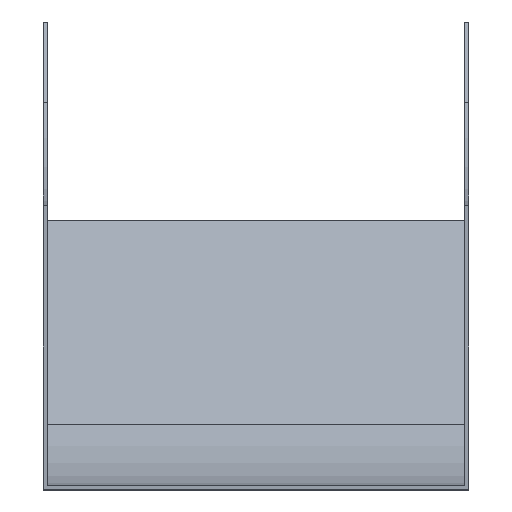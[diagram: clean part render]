
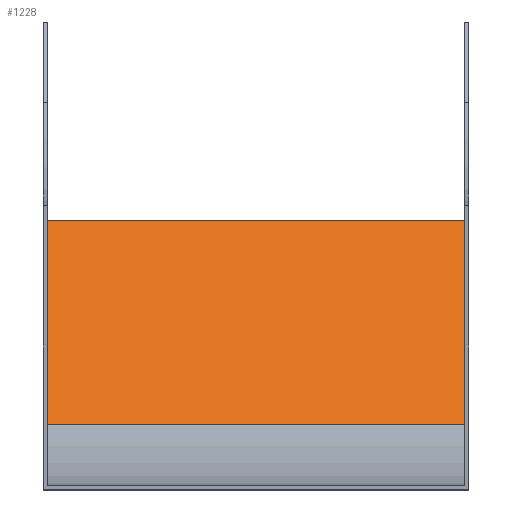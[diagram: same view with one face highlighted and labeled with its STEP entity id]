
A CAD part, top view. The second image highlights one B-rep face of the part: STEP entity #1228.
In plain terms, the highlighted planar face has unit normal (0, 0.707, 0.707).
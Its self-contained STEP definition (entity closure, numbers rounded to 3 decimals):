
#1 = VECTOR ( 'NONE', #472, 1000. ) ;
#22 = VECTOR ( 'NONE', #184, 1000. ) ;
#59 = VECTOR ( 'NONE', #478, 1000. ) ;
#76 = EDGE_CURVE ( 'NONE', #772, #185, #1101, .T. ) ;
#111 = EDGE_CURVE ( 'NONE', #1605, #469, #958, .T. ) ;
#167 = EDGE_CURVE ( 'NONE', #1605, #772, #1469, .T. ) ;
#184 = DIRECTION ( 'NONE',  ( -1., 0., 0. ) ) ;
#185 = VERTEX_POINT ( 'NONE', #729 ) ;
#294 = CARTESIAN_POINT ( 'NONE',  ( 75., -4.754, -226.323 ) ) ;
#358 = ORIENTED_EDGE ( 'NONE', *, *, #715, .F. ) ;
#409 = PLANE ( 'NONE',  #1040 ) ;
#469 = VERTEX_POINT ( 'NONE', #1627 ) ;
#472 = DIRECTION ( 'NONE',  ( -1., 0., 0. ) ) ;
#478 = DIRECTION ( 'NONE',  ( 0., 0.707, -0.707 ) ) ;
#532 = DIRECTION ( 'NONE',  ( 0., 0.707, 0.707 ) ) ;
#571 = DIRECTION ( 'NONE',  ( 0., 0.707, -0.707 ) ) ;
#715 = EDGE_CURVE ( 'NONE', #469, #185, #1372, .T. ) ;
#729 = CARTESIAN_POINT ( 'NONE',  ( -73.5, -4.754, -226.323 ) ) ;
#772 = VERTEX_POINT ( 'NONE', #1041 ) ;
#781 = CARTESIAN_POINT ( 'NONE',  ( 73.5, -76.972, -154.104 ) ) ;
#791 = DIRECTION ( 'NONE',  ( 0., -0.707, 0.707 ) ) ;
#827 = VECTOR ( 'NONE', #571, 1000. ) ;
#828 = CARTESIAN_POINT ( 'NONE',  ( 75., -76.972, -154.104 ) ) ;
#837 = ORIENTED_EDGE ( 'NONE', *, *, #111, .F. ) ;
#958 = LINE ( 'NONE', #828, #1 ) ;
#972 = CARTESIAN_POINT ( 'NONE',  ( 75., -4.754, -226.323 ) ) ;
#1040 = AXIS2_PLACEMENT_3D ( 'NONE', #294, #532, #791 ) ;
#1041 = CARTESIAN_POINT ( 'NONE',  ( 73.5, -4.754, -226.323 ) ) ;
#1101 = LINE ( 'NONE', #972, #22 ) ;
#1133 = CARTESIAN_POINT ( 'NONE',  ( -73.5, -4.754, -226.323 ) ) ;
#1160 = EDGE_LOOP ( 'NONE', ( #358, #837, #1657, #1659 ) ) ;
#1228 = ADVANCED_FACE ( 'NONE', ( #1554 ), #409, .T. ) ;
#1372 = LINE ( 'NONE', #1133, #59 ) ;
#1469 = LINE ( 'NONE', #1481, #827 ) ;
#1481 = CARTESIAN_POINT ( 'NONE',  ( 73.5, -4.754, -226.323 ) ) ;
#1554 = FACE_OUTER_BOUND ( 'NONE', #1160, .T. ) ;
#1605 = VERTEX_POINT ( 'NONE', #781 ) ;
#1627 = CARTESIAN_POINT ( 'NONE',  ( -73.5, -76.972, -154.104 ) ) ;
#1657 = ORIENTED_EDGE ( 'NONE', *, *, #167, .T. ) ;
#1659 = ORIENTED_EDGE ( 'NONE', *, *, #76, .T. ) ;
